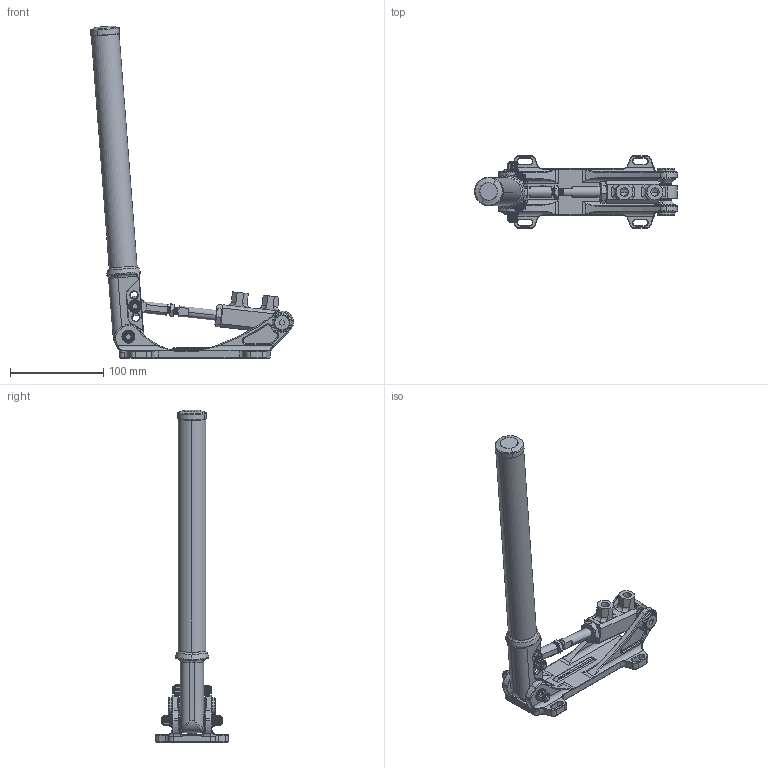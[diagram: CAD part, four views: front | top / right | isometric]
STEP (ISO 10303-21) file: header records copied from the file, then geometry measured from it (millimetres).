
FILE_DESCRIPTION (( 'STEP AP203' ), '1' );
FILE_NAME ('korta kolfiberspaken.STEP', '2026-05-05T08:56:40', ( '' ), ( '' ), 'SwSTEP 2.0', 'SolidWorks 2026', '' );
FILE_SCHEMA (( 'CONFIG_CONTROL_DESIGN' ));
Length unit declared in the file: millimetre
Products named in the file (1): korta kolfiberspaken
Bounding box: 218.43 x 78 x 356.91 mm (x, y, z)
Volume: 295316.4 mm3; surface area: 141559.2 mm2
Topology: 26 solids, 26 shells, 2378 faces, 5694 edges, 3183 vertices
Faces by surface type: cylinder 770, bspline 500, plane 483, cone 313, torus 233, sphere 79
Entity records: 104269 total; most frequent: CARTESIAN_POINT 54858, ORIENTED_EDGE 10940, DIRECTION 9438, EDGE_CURVE 5470, AXIS2_PLACEMENT_3D 3811, VERTEX_POINT 3173, EDGE_LOOP 2477, ADVANCED_FACE 2378
